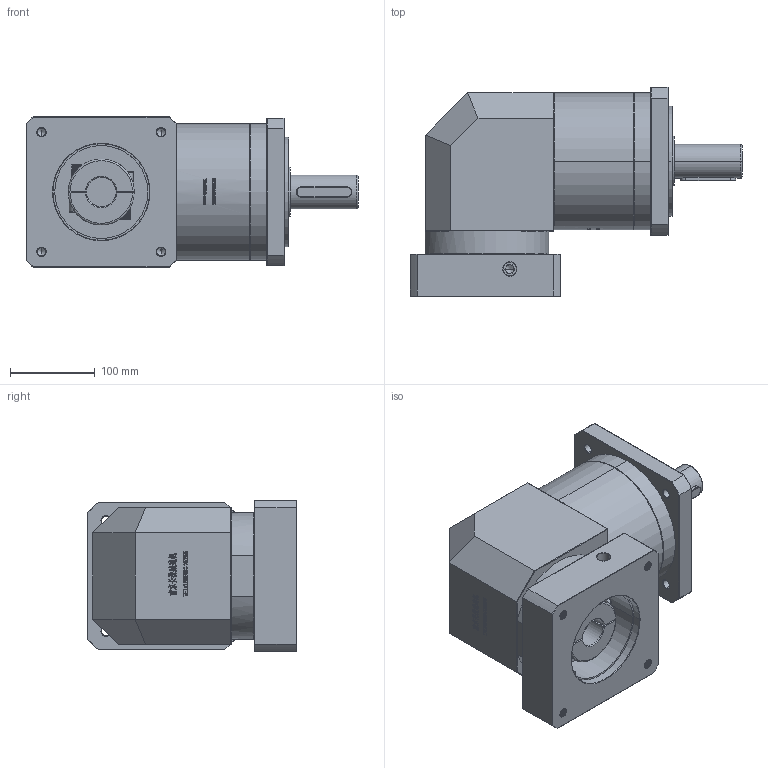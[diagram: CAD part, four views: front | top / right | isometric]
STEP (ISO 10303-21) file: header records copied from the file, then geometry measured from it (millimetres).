
FILE_DESCRIPTION (( 'STEP AP214' ), '1' );
FILE_NAME ('ZFR160A-D40-L2-35-114.3-200-M12.step', '2023-03-22T11:44:55', ( '' ), ( '' ), 'SwSTEP 2.0', 'SolidWorks 2016', '' );
FILE_SCHEMA (( 'AUTOMOTIVE_DESIGN' ));
Length unit declared in the file: millimetre
Products named in the file (1): ZFR160A-D40-L2-35-114.3-200-M12
Bounding box: 392.7 x 247.5 x 178 mm (x, y, z)
Volume: 7922844.8 mm3; surface area: 487298.6 mm2
Topology: 6 solids, 6 shells, 2503 faces, 6588 edges, 4239 vertices
Faces by surface type: plane 1273, bspline 497, cylinder 401, cone 310, torus 22
Entity records: 141984 total; most frequent: CARTESIAN_POINT 56951, ORIENTED_EDGE 13116, DIRECTION 9987, EDGE_CURVE 6558, VERTEX_POINT 4239, LINE 4147, VECTOR 4147, AXIS2_PLACEMENT_3D 2920
